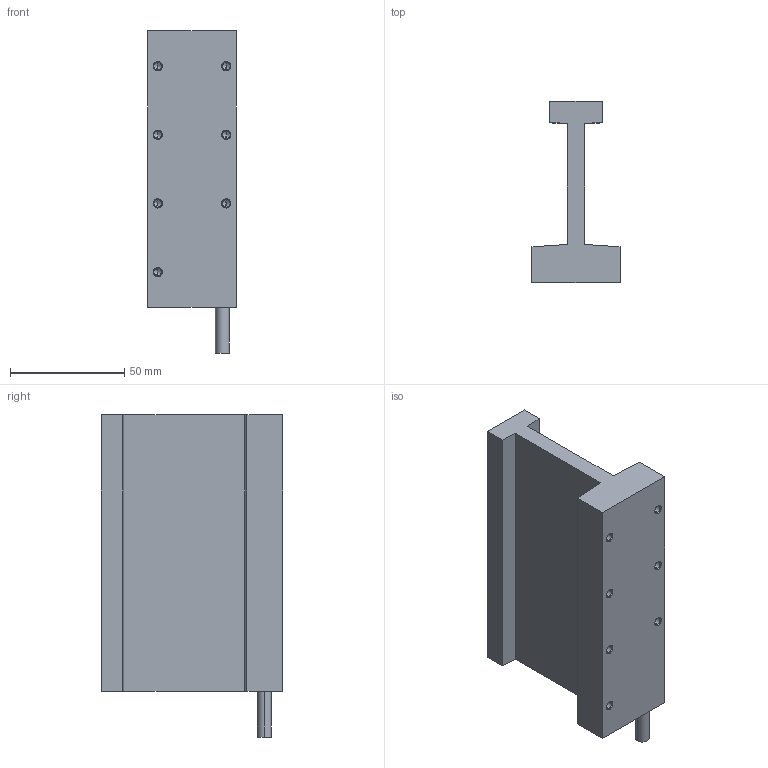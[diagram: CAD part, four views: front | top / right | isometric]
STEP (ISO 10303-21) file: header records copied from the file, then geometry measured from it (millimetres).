
FILE_DESCRIPTION (( 'STEP AP214' ), '1' );
FILE_NAME ('JKB42.STEP', '2025-09-05T12:48:59', ( '' ), ( '' ), 'SwSTEP 2.0', 'SolidWorks 2016', '' );
FILE_SCHEMA (( 'AUTOMOTIVE_DESIGN' ));
Length unit declared in the file: millimetre
Products named in the file (1): JKB42
Bounding box: 38.5 x 79.3 x 141 mm (x, y, z)
Volume: 150617.8 mm3; surface area: 35595.7 mm2
Topology: 1 solids, 1 shells, 59 faces, 140 edges, 77 vertices
Faces by surface type: cone 28, cylinder 16, plane 15
Entity records: 1766 total; most frequent: DIRECTION 292, CARTESIAN_POINT 263, ORIENTED_EDGE 252, EDGE_CURVE 126, AXIS2_PLACEMENT_3D 106, LINE 80, VECTOR 80, VERTEX_POINT 77
